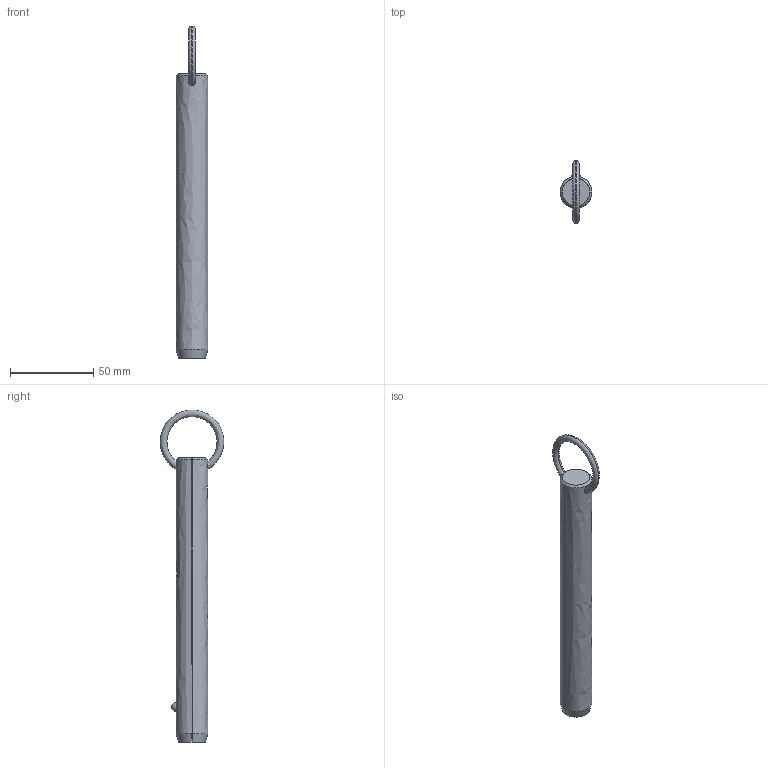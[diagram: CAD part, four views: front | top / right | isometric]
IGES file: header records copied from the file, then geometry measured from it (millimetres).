
Start section: SolidWorks IGES file using analytic representation for surfaces
Global section: file name: C:\Users\liam_\OneDrive\Documents\WORK\Work for WixRoyd\Job Files\J-00019 - Matt Davis CAD Checking\04. CAD Drawings\automotion20190605\P1250.2_v2\P1250.2_v2_20190729_IGES\P1250.075-540.igs; native system: SolidWorks 2017; preprocessor: SolidWorks 2017; author: liam_; date: 190729.235722; units: millimetre
Bounding box: 19 x 38.01 x 199 mm (x, y, z)
Surface area: 11704 mm2 (no closed solid volume)
Topology: 0 solids, 0 shells, 12 faces, 294 edges, 292 vertices
Faces by surface type: revolution 8, bspline 4
